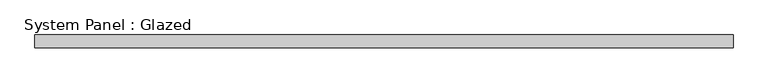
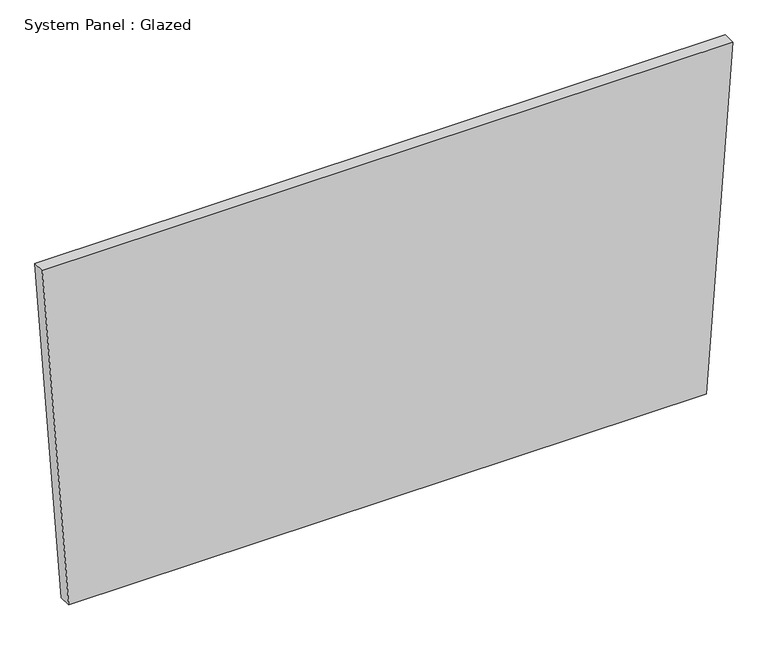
"""IFC4 building model written with IfcOpenShell, lengths in millimetres: plate geometry, System Panel : Glazed."""

import ifcopenshell
import ifcopenshell.guid

model = None  # the IFC model being written
_history = None  # IfcOwnerHistory: only IFC2X3 demands one
_inside = {}  # id of a spatial element -> (the spatial element, [elements in it])
_under = {}  # id of a project, library or spatial element -> (it, [spatial elements below it])
_declared = {}  # id of a project -> (the project, [libraries it declares])
_typed = {}  # id of a type object -> (the type object, [elements of that type])
_made_of = {}  # id of a material, layer set ... -> (it, [elements and type objects made of it])


def new_model(schema):
    """Start an empty IFC model of exactly this schema.

    Asked for "IFC4X3", IfcOpenShell would pick the latest addendum, in which some entities
    have other attributes; the version numbers below select the first issue.
    IFC2X3 requires an IfcOwnerHistory on every rooted entity: one is made here for all.
    """
    global model, _history
    if schema == "IFC4X3":
        model = ifcopenshell.file(schema_version=(4, 3, 0, 0))
    else:
        model = ifcopenshell.file(schema=schema)
    _inside.clear()
    _under.clear()
    _declared.clear()
    _typed.clear()
    _made_of.clear()
    _history = None
    if model.schema == "IFC2X3":
        org = make("IfcOrganization", Name="unknown")
        user = make(
            "IfcPersonAndOrganization",
            ThePerson=make("IfcPerson", FamilyName="unknown"),
            TheOrganization=org,
        )
        app = make(
            "IfcApplication",
            ApplicationDeveloper=org,
            Version="unknown",
            ApplicationFullName="unknown",
            ApplicationIdentifier="unknown",
        )
        _history = make(
            "IfcOwnerHistory",
            OwningUser=user,
            OwningApplication=app,
            ChangeAction="ADDED",
            CreationDate=0,
        )
    return model


def make(cls, **values):
    """One entity of the class cls with the attributes given. An attribute that is None is left unset."""
    return model.create_entity(
        cls, **{name: value for name, value in values.items() if value is not None}
    )


def rooted(cls, **values):
    """An entity with a GlobalId (a new one), such as an element, a storey or a relation."""
    return make(cls, GlobalId=ifcopenshell.guid.new(), OwnerHistory=_history, **values)


def si_unit(unit_type, name, prefix=None):
    """IfcSIUnit, for example si_unit("LENGTHUNIT", "METRE", prefix="MILLI")."""
    return make("IfcSIUnit", UnitType=unit_type, Prefix=prefix, Name=name)


def assignment(units):
    """IfcUnitAssignment: the units of a project."""
    return None if units is None else make("IfcUnitAssignment", Units=units)


def point(xyz):
    """IfcCartesianPoint."""
    return None if xyz is None else make("IfcCartesianPoint", Coordinates=xyz)


def direction(xyz):
    """IfcDirection."""
    return None if xyz is None else make("IfcDirection", DirectionRatios=xyz)


def frame(location, z_axis=None, x_axis=None):
    """IfcAxis2Placement3D, a coordinate frame: its origin and axes. An axis left out is left unset."""
    return make(
        "IfcAxis2Placement3D",
        Location=point(location),
        Axis=direction(z_axis),
        RefDirection=direction(x_axis),
    )


def origin():
    """The frame at (0, 0, 0) with its axes left unset."""
    return frame((0.0, 0.0, 0.0))


def place(relative_to, where):
    """IfcLocalPlacement: puts the frame where relative to a parent placement (None: the world)."""
    return make(
        "IfcLocalPlacement", PlacementRelTo=relative_to, RelativePlacement=where
    )


def context(
    kind, dimensions, precision=None, world=None, true_north=None, identifier=None
):
    """IfcGeometricRepresentationContext, for example the 3D "Model" context."""
    return make(
        "IfcGeometricRepresentationContext",
        ContextIdentifier=identifier,
        ContextType=kind,
        CoordinateSpaceDimension=dimensions,
        Precision=precision,
        WorldCoordinateSystem=world,
        TrueNorth=true_north,
    )


def project(units=None, contexts=None):
    """IfcProject with its units and contexts."""
    return rooted(
        "IfcProject",
        Name="project",
        RepresentationContexts=contexts,
        UnitsInContext=assignment(units),
    )


def spatial(cls, under=None, at=None, **own):
    """A site, building, storey or space (cls), placed at a placement, below another one or the project."""
    s = rooted(cls, ObjectPlacement=at, **own)
    if under is not None:
        _under.setdefault(under.id(), (under, []))[1].append(s)
    return s


def polyline(points):
    """IfcPolyline through the points."""
    return make("IfcPolyline", Points=[point(p) for p in points])


def outline(outer, holes=None, kind="AREA"):
    """IfcArbitraryClosedProfileDef: a profile drawn as a closed curve; with holes, ...WithVoids."""
    if holes is None:
        return make("IfcArbitraryClosedProfileDef", ProfileType=kind, OuterCurve=outer)
    return make(
        "IfcArbitraryProfileDefWithVoids",
        ProfileType=kind,
        OuterCurve=outer,
        InnerCurves=holes,
    )


def extrude(swept, where, along, depth):
    """IfcExtrudedAreaSolid: the profile swept, set in the frame where, extruded along a direction by depth."""
    return make(
        "IfcExtrudedAreaSolid",
        SweptArea=swept,
        Position=where,
        ExtrudedDirection=direction(along),
        Depth=depth,
    )


def shape(context_of_items, identifier, shape_type, items):
    """IfcShapeRepresentation: the items that make up one representation, for example the "Body"."""
    return make(
        "IfcShapeRepresentation",
        ContextOfItems=context_of_items,
        RepresentationIdentifier=identifier,
        RepresentationType=shape_type,
        Items=items,
    )


def source(mapping_origin, context_of_items, identifier, shape_type, items):
    """IfcRepresentationMap: a shape defined once, which mapped items show again and again."""
    return make(
        "IfcRepresentationMap",
        MappingOrigin=mapping_origin,
        MappedRepresentation=shape(context_of_items, identifier, shape_type, items),
    )


def transform(
    local_origin,
    x_axis=None,
    y_axis=None,
    z_axis=None,
    scale=None,
    scale2=None,
    scale3=None,
    uniform=True,
):
    """IfcCartesianTransformationOperator3D, or its non-uniform kind. x_axis, y_axis, z_axis: its Axis1, 2, 3."""
    if uniform:
        return make(
            "IfcCartesianTransformationOperator3D",
            Axis1=direction(x_axis),
            Axis2=direction(y_axis),
            LocalOrigin=point(local_origin),
            Scale=scale,
            Axis3=direction(z_axis),
        )
    return make(
        "IfcCartesianTransformationOperator3DnonUniform",
        Axis1=direction(x_axis),
        Axis2=direction(y_axis),
        LocalOrigin=point(local_origin),
        Scale=scale,
        Axis3=direction(z_axis),
        Scale2=scale2,
        Scale3=scale3,
    )


def mapped(mapping_source, mapping_target):
    """IfcMappedItem: shows the shape of a source again, moved by a transform."""
    return make(
        "IfcMappedItem", MappingSource=mapping_source, MappingTarget=mapping_target
    )


def made_of(thing, what):
    """Note that an element or type object is made of a material, layer set ...; save() writes the relation."""
    if what is not None:
        _made_of.setdefault(what.id(), (what, []))[1].append(thing)
    return thing


def element(
    cls,
    number,
    at=None,
    inside=None,
    cuts=None,
    type_object=None,
    material=None,
    context=None,
    identifier="Body",
    shape_type=None,
    held_by="IfcProductDefinitionShape",
    body=None,
    shapes=None,
    **own,
):
    """One element of the class cls, such as IfcWall. Its Tag is "e" and its number.

    at: its placement. inside: the storey or other place that contains it. cuts: it is an
    opening in that element (IfcRelVoidsElement). A single representation is given by context,
    identifier, shape_type and body (its items); several are given by shapes. held_by: the class
    of the entity that holds the representations. save() writes the other relations.
    """
    e = rooted(cls, Tag="e%d" % number, ObjectPlacement=at, **own)
    if body is not None:
        shapes = [shape(context, identifier, shape_type, body)]
    if shapes is not None:
        e.Representation = make(held_by, Representations=shapes)
    if inside is not None:
        _inside.setdefault(inside.id(), (inside, []))[1].append(e)
    if cuts is not None:
        rooted(
            "IfcRelVoidsElement", RelatingBuildingElement=cuts, RelatedOpeningElement=e
        )
    if type_object is not None:
        _typed.setdefault(type_object.id(), (type_object, []))[1].append(e)
    return made_of(e, material)


def aggregate(whole, parts):
    """IfcRelAggregates: a whole, such as a stair, and the parts it consists of."""
    return rooted("IfcRelAggregates", RelatingObject=whole, RelatedObjects=parts)


def save(model, path):
    """Write the relations noted so far, then the file.

    IfcRelAggregates (storeys below a building ...), IfcRelContainedInSpatialStructure (elements
    in a storey), IfcRelDefinesByType, IfcRelAssociatesMaterial and IfcRelDeclares: one each for
    every whole, place, type object, material and project.
    """
    for whole, parts in _under.values():
        aggregate(whole, parts)
    for where, things in _inside.values():
        rooted(
            "IfcRelContainedInSpatialStructure",
            RelatedElements=things,
            RelatingStructure=where,
        )
    for kind, things in _typed.values():
        rooted("IfcRelDefinesByType", RelatedObjects=things, RelatingType=kind)
    for what, things in _made_of.values():
        rooted("IfcRelAssociatesMaterial", RelatedObjects=things, RelatingMaterial=what)
    for by, libraries in _declared.values():
        rooted("IfcRelDeclares", RelatingContext=by, RelatedDefinitions=libraries)
    model.write(path)


def system_panel_glazed_59c087d3(model_context):
    return source(origin(), model_context, "Body", "SweptSolid", [
        extrude(outline(polyline([(0.0, -635.8462542), (0.0054166, 635.8466042), (723.0054338, 688.3578724), (723.0048369, -688.3578724), (0.0, -635.8462542)])), frame((0.0, 19.05, 0.0), z_axis=(0.0, 1.0, 0.0), x_axis=(0.0, 0.0, 1.0)), (0.0, 0.0, 1.0), 25.4),
    ])


if __name__ == "__main__":
    model = new_model("IFC4")
    model_context = context("Model", 3, world=origin())
    ifc_project = project(units=[si_unit("LENGTHUNIT", "METRE", prefix="MILLI")], contexts=[model_context])
    site = spatial("IfcSite", under=ifc_project)
    building = spatial("IfcBuilding", under=site)
    placement = place(None, origin())
    system_panel_glazed_shape = system_panel_glazed_59c087d3(model_context)
    element("IfcPlate", 1, ObjectType="System Panel : Glazed", at=placement, inside=building, context=model_context, shape_type="MappedRepresentation", body=[
        mapped(system_panel_glazed_shape, transform((0.0, 0.0, 0.0), x_axis=(1.0, 0.0, 0.0), y_axis=(0.0, 1.0, 0.0), z_axis=(0.0, 0.0, 1.0))),
    ])
    save(model, "model.ifc")
